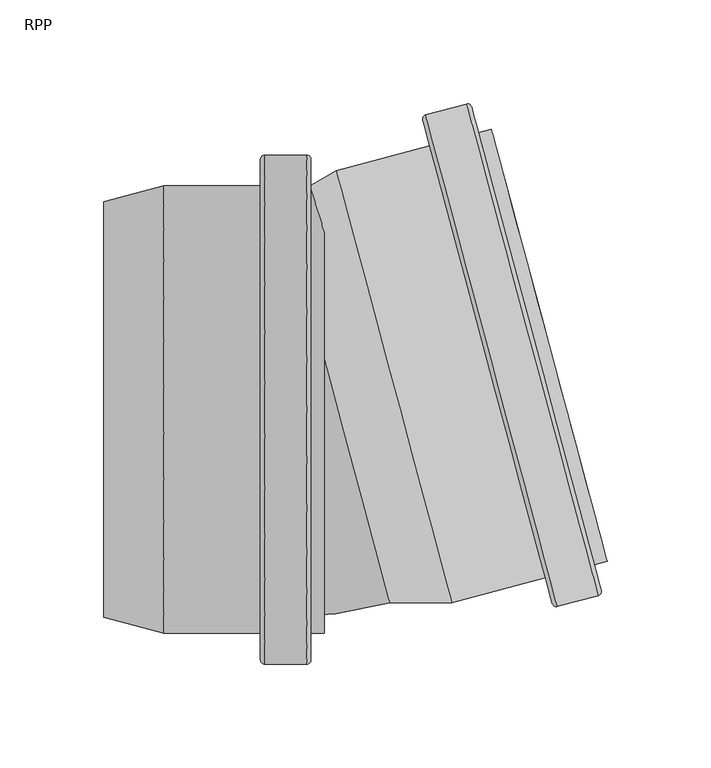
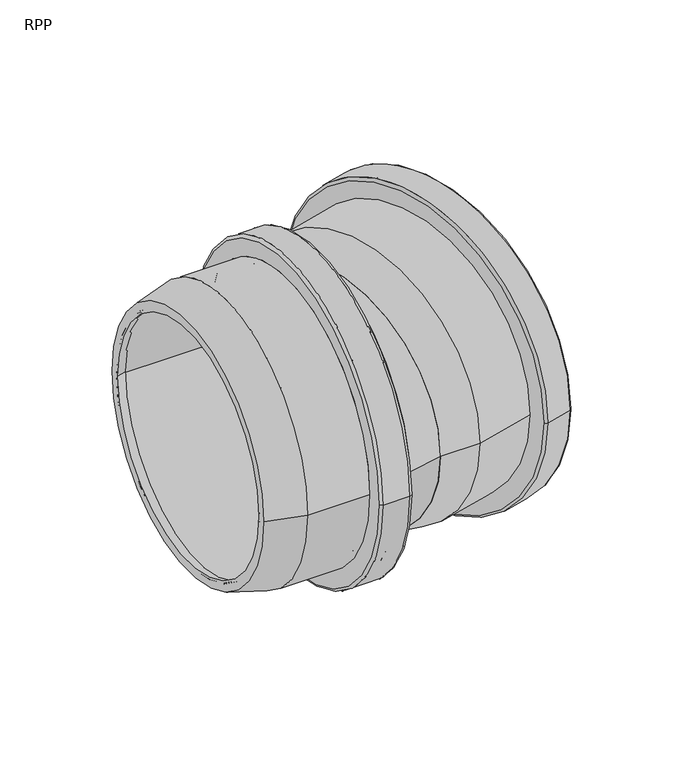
"""IFC4 building model written with IfcOpenShell, lengths in millimetres: pipe fitting geometry, RAUPIANO PLUS Bend : RPP."""

import ifcopenshell
import ifcopenshell.guid

model = None  # the IFC model being written
_history = None  # IfcOwnerHistory: only IFC2X3 demands one
_inside = {}  # id of a spatial element -> (the spatial element, [elements in it])
_under = {}  # id of a project, library or spatial element -> (it, [spatial elements below it])
_declared = {}  # id of a project -> (the project, [libraries it declares])
_typed = {}  # id of a type object -> (the type object, [elements of that type])
_made_of = {}  # id of a material, layer set ... -> (it, [elements and type objects made of it])


def new_model(schema):
    """Start an empty IFC model of exactly this schema.

    Asked for "IFC4X3", IfcOpenShell would pick the latest addendum, in which some entities
    have other attributes; the version numbers below select the first issue.
    IFC2X3 requires an IfcOwnerHistory on every rooted entity: one is made here for all.
    """
    global model, _history
    if schema == "IFC4X3":
        model = ifcopenshell.file(schema_version=(4, 3, 0, 0))
    else:
        model = ifcopenshell.file(schema=schema)
    _inside.clear()
    _under.clear()
    _declared.clear()
    _typed.clear()
    _made_of.clear()
    _history = None
    if model.schema == "IFC2X3":
        org = make("IfcOrganization", Name="unknown")
        user = make(
            "IfcPersonAndOrganization",
            ThePerson=make("IfcPerson", FamilyName="unknown"),
            TheOrganization=org,
        )
        app = make(
            "IfcApplication",
            ApplicationDeveloper=org,
            Version="unknown",
            ApplicationFullName="unknown",
            ApplicationIdentifier="unknown",
        )
        _history = make(
            "IfcOwnerHistory",
            OwningUser=user,
            OwningApplication=app,
            ChangeAction="ADDED",
            CreationDate=0,
        )
    return model


def make(cls, **values):
    """One entity of the class cls with the attributes given. An attribute that is None is left unset."""
    return model.create_entity(
        cls, **{name: value for name, value in values.items() if value is not None}
    )


def rooted(cls, **values):
    """An entity with a GlobalId (a new one), such as an element, a storey or a relation."""
    return make(cls, GlobalId=ifcopenshell.guid.new(), OwnerHistory=_history, **values)


def si_unit(unit_type, name, prefix=None):
    """IfcSIUnit, for example si_unit("LENGTHUNIT", "METRE", prefix="MILLI")."""
    return make("IfcSIUnit", UnitType=unit_type, Prefix=prefix, Name=name)


def assignment(units):
    """IfcUnitAssignment: the units of a project."""
    return None if units is None else make("IfcUnitAssignment", Units=units)


def point(xyz):
    """IfcCartesianPoint."""
    return None if xyz is None else make("IfcCartesianPoint", Coordinates=xyz)


def direction(xyz):
    """IfcDirection."""
    return None if xyz is None else make("IfcDirection", DirectionRatios=xyz)


def frame(location, z_axis=None, x_axis=None):
    """IfcAxis2Placement3D, a coordinate frame: its origin and axes. An axis left out is left unset."""
    return make(
        "IfcAxis2Placement3D",
        Location=point(location),
        Axis=direction(z_axis),
        RefDirection=direction(x_axis),
    )


def origin():
    """The frame at (0, 0, 0) with its axes left unset."""
    return frame((0.0, 0.0, 0.0))


def place(relative_to, where):
    """IfcLocalPlacement: puts the frame where relative to a parent placement (None: the world)."""
    return make(
        "IfcLocalPlacement", PlacementRelTo=relative_to, RelativePlacement=where
    )


def context(
    kind, dimensions, precision=None, world=None, true_north=None, identifier=None
):
    """IfcGeometricRepresentationContext, for example the 3D "Model" context."""
    return make(
        "IfcGeometricRepresentationContext",
        ContextIdentifier=identifier,
        ContextType=kind,
        CoordinateSpaceDimension=dimensions,
        Precision=precision,
        WorldCoordinateSystem=world,
        TrueNorth=true_north,
    )


def project(units=None, contexts=None):
    """IfcProject with its units and contexts."""
    return rooted(
        "IfcProject",
        Name="project",
        RepresentationContexts=contexts,
        UnitsInContext=assignment(units),
    )


def spatial(cls, under=None, at=None, **own):
    """A site, building, storey or space (cls), placed at a placement, below another one or the project."""
    s = rooted(cls, ObjectPlacement=at, **own)
    if under is not None:
        _under.setdefault(under.id(), (under, []))[1].append(s)
    return s


def polyline(points):
    """IfcPolyline through the points."""
    return make("IfcPolyline", Points=[point(p) for p in points])


def circle_curve(where, radius):
    """IfcCircle in the frame where."""
    return make("IfcCircle", Position=where, Radius=radius)


def ellipse_curve(where, semi_axis1, semi_axis2):
    """IfcEllipse in the frame where."""
    return make(
        "IfcEllipse", Position=where, SemiAxis1=semi_axis1, SemiAxis2=semi_axis2
    )


def trimmed(basis, trim1, trim2, sense, master):
    """IfcTrimmedCurve: the piece of a basis curve between two trims."""
    return make(
        "IfcTrimmedCurve",
        BasisCurve=basis,
        Trim1=trim1,
        Trim2=trim2,
        SenseAgreement=sense,
        MasterRepresentation=master,
    )


def shape(context_of_items, identifier, shape_type, items):
    """IfcShapeRepresentation: the items that make up one representation, for example the "Body"."""
    return make(
        "IfcShapeRepresentation",
        ContextOfItems=context_of_items,
        RepresentationIdentifier=identifier,
        RepresentationType=shape_type,
        Items=items,
    )


def source(mapping_origin, context_of_items, identifier, shape_type, items):
    """IfcRepresentationMap: a shape defined once, which mapped items show again and again."""
    return make(
        "IfcRepresentationMap",
        MappingOrigin=mapping_origin,
        MappedRepresentation=shape(context_of_items, identifier, shape_type, items),
    )


def transform(
    local_origin,
    x_axis=None,
    y_axis=None,
    z_axis=None,
    scale=None,
    scale2=None,
    scale3=None,
    uniform=True,
):
    """IfcCartesianTransformationOperator3D, or its non-uniform kind. x_axis, y_axis, z_axis: its Axis1, 2, 3."""
    if uniform:
        return make(
            "IfcCartesianTransformationOperator3D",
            Axis1=direction(x_axis),
            Axis2=direction(y_axis),
            LocalOrigin=point(local_origin),
            Scale=scale,
            Axis3=direction(z_axis),
        )
    return make(
        "IfcCartesianTransformationOperator3DnonUniform",
        Axis1=direction(x_axis),
        Axis2=direction(y_axis),
        LocalOrigin=point(local_origin),
        Scale=scale,
        Axis3=direction(z_axis),
        Scale2=scale2,
        Scale3=scale3,
    )


def mapped(mapping_source, mapping_target):
    """IfcMappedItem: shows the shape of a source again, moved by a transform."""
    return make(
        "IfcMappedItem", MappingSource=mapping_source, MappingTarget=mapping_target
    )


def made_of(thing, what):
    """Note that an element or type object is made of a material, layer set ...; save() writes the relation."""
    if what is not None:
        _made_of.setdefault(what.id(), (what, []))[1].append(thing)
    return thing


def element(
    cls,
    number,
    at=None,
    inside=None,
    cuts=None,
    type_object=None,
    material=None,
    context=None,
    identifier="Body",
    shape_type=None,
    held_by="IfcProductDefinitionShape",
    body=None,
    shapes=None,
    **own,
):
    """One element of the class cls, such as IfcWall. Its Tag is "e" and its number.

    at: its placement. inside: the storey or other place that contains it. cuts: it is an
    opening in that element (IfcRelVoidsElement). A single representation is given by context,
    identifier, shape_type and body (its items); several are given by shapes. held_by: the class
    of the entity that holds the representations. save() writes the other relations.
    """
    e = rooted(cls, Tag="e%d" % number, ObjectPlacement=at, **own)
    if body is not None:
        shapes = [shape(context, identifier, shape_type, body)]
    if shapes is not None:
        e.Representation = make(held_by, Representations=shapes)
    if inside is not None:
        _inside.setdefault(inside.id(), (inside, []))[1].append(e)
    if cuts is not None:
        rooted(
            "IfcRelVoidsElement", RelatingBuildingElement=cuts, RelatedOpeningElement=e
        )
    if type_object is not None:
        _typed.setdefault(type_object.id(), (type_object, []))[1].append(e)
    return made_of(e, material)


def aggregate(whole, parts):
    """IfcRelAggregates: a whole, such as a stair, and the parts it consists of."""
    return rooted("IfcRelAggregates", RelatingObject=whole, RelatedObjects=parts)


def save(model, path):
    """Write the relations noted so far, then the file.

    IfcRelAggregates (storeys below a building ...), IfcRelContainedInSpatialStructure (elements
    in a storey), IfcRelDefinesByType, IfcRelAssociatesMaterial and IfcRelDeclares: one each for
    every whole, place, type object, material and project.
    """
    for whole, parts in _under.values():
        aggregate(whole, parts)
    for where, things in _inside.values():
        rooted(
            "IfcRelContainedInSpatialStructure",
            RelatedElements=things,
            RelatingStructure=where,
        )
    for kind, things in _typed.values():
        rooted("IfcRelDefinesByType", RelatedObjects=things, RelatingType=kind)
    for what, things in _made_of.values():
        rooted("IfcRelAssociatesMaterial", RelatedObjects=things, RelatingMaterial=what)
    for by, libraries in _declared.values():
        rooted("IfcRelDeclares", RelatingContext=by, RelatedDefinitions=libraries)
    model.write(path)


def plane_surface(at):
    """IfcPlane: the flat surface through the origin of the frame at, square to its z axis."""
    return make("IfcPlane", Position=at)


def cylinder_surface(at, radius):
    """IfcCylindricalSurface: all points at the distance radius from the z axis of the frame at."""
    return make("IfcCylindricalSurface", Position=at, Radius=radius)


def revolved_surface(curve, axis_point, axis_direction):
    """IfcSurfaceOfRevolution: the curve turned about the line through axis_point along axis_direction."""
    return make(
        "IfcSurfaceOfRevolution",
        SweptCurve=make("IfcArbitraryOpenProfileDef", ProfileType="CURVE", Curve=curve),
        AxisPosition=make("IfcAxis1Placement", Location=point(axis_point), Axis=direction(axis_direction)),
    )


def advanced_brep(points, edges, surfaces, faces):
    """IfcAdvancedBrep: a solid bounded by faces that lie on surfaces and meet in shared edges.

    An edge is (start, end): straight between two places in points (the first is 0);
    or (start, end, curve); or (start, end, curve, False) where it runs against its curve.
    A face is (place in surfaces, loops), or (place, loops, False) where it looks against
    its surface's normal. A loop lists edges by number (the first is 1), with a minus sign
    where the edge is run from its end to its start. The first loop is the outer one.
    """
    corners = [point(p) for p in points]
    vertices = [make("IfcVertexPoint", VertexGeometry=c) for c in corners]
    made = []
    for start, end, *more in edges:
        made.append(
            make(
                "IfcEdgeCurve",
                EdgeStart=vertices[start],
                EdgeEnd=vertices[end],
                EdgeGeometry=more[0] if more else make("IfcPolyline", Points=[corners[start], corners[end]]),
                SameSense=more[1] if len(more) > 1 else True,
            )
        )
    hull = []
    for where, loops, *sense in faces:
        bounds = []
        for j, loop in enumerate(loops):
            ring = [make("IfcOrientedEdge", EdgeElement=made[abs(k) - 1], Orientation=k > 0) for k in loop]
            bounds.append(
                make(
                    "IfcFaceOuterBound" if j == 0 else "IfcFaceBound",
                    Bound=make("IfcEdgeLoop", EdgeList=ring),
                    Orientation=True,
                )
            )
        hull.append(make("IfcAdvancedFace", Bounds=bounds, FaceSurface=surfaces[where], SameSense=sense[0] if sense else True))
    return make("IfcAdvancedBrep", Outer=make("IfcClosedShell", CfsFaces=hull))


def rpp_a2276557(model_context):
    return source(origin(), model_context, "Body", "AdvancedBrep", [
        advanced_brep(
        [(-15.8918597, -100.3, 0.0), (-15.8918597, 100.3, 0.0), (-68.98084, 100.3, 0.0), (-68.98084, -100.3, 0.0), (-15.3918597, -115.1, 0.0), (-15.3918597, 115.1, 0.0), (-15.8918597, 114.6, 0.0), (-15.8918597, -114.6, 0.0), (-6.8918597, -115.1, 0.0), (-6.8918597, 115.1, 0.0), (-6.3918597, -114.6, 0.0), (-6.3918597, 114.6, 0.0), (7.4081403, -100.3, 0.0), (7.4081403, 100.3, 0.0), (-6.3918597, 100.3, 0.0), (-6.3918597, -100.3, 0.0), (1.0081403, -107.7, 0.0), (1.0081403, 107.7, 0.0), (7.4081403, 107.7, 0.0), (7.4081403, -107.7, 0.0), (-0.9918597, -122.5, 0.0), (-0.9918597, 122.5, 0.0), (1.0081403, 120.5, 0.0), (1.0081403, -120.5, 0.0), (-21.2918597, -122.5, 0.0), (-21.2918597, 122.5, 0.0), (-23.2918597, -120.5, 0.0), (-23.2918597, 120.5, 0.0), (-69.9550685, -107.7, 0.0), (-69.9550685, 107.7, 0.0), (-23.2918597, 107.7, 0.0), (-23.2918597, -107.7, 0.0), (-98.6918597, -100.0, 0.0), (-98.6918597, 100.0, 0.0), (-98.6918597, 92.3389563, 0.0), (-98.6918597, -92.3389563, 0.0)],
        [
            (0, 1, circle_curve(frame((-15.8918597, 0.0, 0.0), z_axis=(1.0, 0.0, 0.0), x_axis=(0.0, 1.0, 0.0)), 100.3)),
            (1, 2),
            (2, 3, circle_curve(frame((-68.98084, 0.0, 0.0), z_axis=(-1.0, 0.0, 0.0), x_axis=(0.0, 1.0, 0.0)), 100.3)),
            (3, 0),
            (4, 5, circle_curve(frame((-15.3918597, 0.0, 0.0), z_axis=(1.0, 0.0, 0.0), x_axis=(0.0, 1.0, 0.0)), 115.1)),
            (5, 6, circle_curve(frame((-15.3918597, 114.6, 0.0), z_axis=(0.0, 0.0, 1.0), x_axis=(0.0, -1.0, 0.0)), 0.5)),
            (6, 7, circle_curve(frame((-15.8918597, 0.0, 0.0), z_axis=(-1.0, 0.0, 0.0), x_axis=(0.0, 1.0, 0.0)), 114.6)),
            (7, 4, circle_curve(frame((-15.3918597, -114.6, 0.0), z_axis=(0.0, 0.0, 1.0), x_axis=(0.0, 1.0, 0.0)), 0.5)),
            (8, 9, circle_curve(frame((-6.8918597, 0.0, 0.0), z_axis=(1.0, 0.0, 0.0), x_axis=(0.0, 1.0, 0.0)), 115.1)),
            (9, 5),
            (4, 8),
            (10, 11, circle_curve(frame((-6.3918597, 0.0, 0.0), z_axis=(1.0, 0.0, 0.0), x_axis=(0.0, 1.0, 0.0)), 114.6)),
            (11, 9, circle_curve(frame((-6.8918597, 114.6, 0.0), z_axis=(0.0, 0.0, 1.0), x_axis=(0.0, -1.0, 0.0)), 0.5)),
            (8, 10, circle_curve(frame((-6.8918597, -114.6, 0.0), z_axis=(0.0, 0.0, 1.0), x_axis=(0.0, 1.0, 0.0)), 0.5)),
            (12, 13, circle_curve(frame((7.4081403, 0.0, 0.0), z_axis=(1.0, 0.0, 0.0), x_axis=(0.0, 1.0, 0.0)), 100.3)),
            (13, 14),
            (14, 15, circle_curve(frame((-6.3918597, 0.0, 0.0), z_axis=(-1.0, 0.0, 0.0), x_axis=(0.0, 1.0, 0.0)), 100.3)),
            (15, 12),
            (16, 17, circle_curve(frame((1.0081403, 0.0, 0.0), z_axis=(1.0, 0.0, 0.0), x_axis=(0.0, 1.0, 0.0)), 107.7)),
            (17, 18),
            (18, 19, circle_curve(frame((7.4081403, 0.0, 0.0), z_axis=(-1.0, 0.0, 0.0), x_axis=(0.0, 1.0, 0.0)), 107.7)),
            (19, 16),
            (20, 21, circle_curve(frame((-0.9918597, 0.0, 0.0), z_axis=(1.0, 0.0, 0.0), x_axis=(0.0, 1.0, 0.0)), 122.5)),
            (21, 22, circle_curve(frame((-0.9918597, 120.5, 0.0), z_axis=(0.0, 0.0, -1.0), x_axis=(0.0, -1.0, 0.0)), 2.0)),
            (22, 23, circle_curve(frame((1.0081403, 0.0, 0.0), z_axis=(-1.0, 0.0, 0.0), x_axis=(0.0, 1.0, 0.0)), 120.5)),
            (23, 20, circle_curve(frame((-0.9918597, -120.5, 0.0), z_axis=(0.0, 0.0, -1.0), x_axis=(0.0, 1.0, 0.0)), 2.0)),
            (24, 25, circle_curve(frame((-21.2918597, 0.0, 0.0), z_axis=(1.0, 0.0, 0.0), x_axis=(0.0, 1.0, 0.0)), 122.5)),
            (25, 21),
            (20, 24),
            (26, 27, circle_curve(frame((-23.2918597, 0.0, 0.0), z_axis=(1.0, 0.0, 0.0), x_axis=(0.0, 1.0, 0.0)), 120.5)),
            (27, 25, circle_curve(frame((-21.2918597, 120.5, 0.0), z_axis=(0.0, 0.0, -1.0), x_axis=(0.0, -1.0, 0.0)), 2.0)),
            (24, 26, circle_curve(frame((-21.2918597, -120.5, 0.0), z_axis=(0.0, 0.0, -1.0), x_axis=(0.0, 1.0, 0.0)), 2.0)),
            (28, 29, circle_curve(frame((-69.9550685, 0.0, 0.0), z_axis=(1.0, 0.0, 0.0), x_axis=(0.0, 1.0, 0.0)), 107.7)),
            (29, 30),
            (30, 31, circle_curve(frame((-23.2918597, 0.0, 0.0), z_axis=(-1.0, 0.0, 0.0), x_axis=(0.0, 1.0, 0.0)), 107.7)),
            (31, 28),
            (32, 33, circle_curve(frame((-98.6918597, 0.0, 0.0), z_axis=(1.0, 0.0, 0.0), x_axis=(0.0, 1.0, 0.0)), 100.0)),
            (33, 29),
            (28, 32),
            (2, 34),
            (34, 35, circle_curve(frame((-98.6918597, 0.0, 0.0), z_axis=(-1.0, 0.0, 0.0), x_axis=(0.0, 1.0, 0.0)), 92.3389563)),
            (35, 3),
            (1, 0, circle_curve(frame((-15.8918597, 0.0, 0.0), z_axis=(1.0, 0.0, 0.0), x_axis=(0.0, -1.0, 0.0)), 100.3)),
            (3, 2, circle_curve(frame((-68.98084, 0.0, 0.0), z_axis=(-1.0, 0.0, 0.0), x_axis=(0.0, -1.0, 0.0)), 100.3)),
            (6, 7, circle_curve(frame((-15.8918597, 0.0, 0.0), z_axis=(1.0, 0.0, 0.0), x_axis=(0.0, -1.0, 0.0)), 114.6)),
            (5, 4, circle_curve(frame((-15.3918597, 0.0, 0.0), z_axis=(1.0, 0.0, 0.0), x_axis=(0.0, -1.0, 0.0)), 115.1)),
            (9, 8, circle_curve(frame((-6.8918597, 0.0, 0.0), z_axis=(1.0, 0.0, 0.0), x_axis=(0.0, -1.0, 0.0)), 115.1)),
            (11, 10, circle_curve(frame((-6.3918597, 0.0, 0.0), z_axis=(1.0, 0.0, 0.0), x_axis=(0.0, -1.0, 0.0)), 114.6)),
            (14, 15, circle_curve(frame((-6.3918597, 0.0, 0.0), z_axis=(1.0, 0.0, 0.0), x_axis=(0.0, -1.0, 0.0)), 100.3)),
            (13, 12, circle_curve(frame((7.4081403, 0.0, 0.0), z_axis=(1.0, 0.0, 0.0), x_axis=(0.0, -1.0, 0.0)), 100.3)),
            (18, 19, circle_curve(frame((7.4081403, 0.0, 0.0), z_axis=(1.0, 0.0, 0.0), x_axis=(0.0, -1.0, 0.0)), 107.7)),
            (17, 16, circle_curve(frame((1.0081403, 0.0, 0.0), z_axis=(1.0, 0.0, 0.0), x_axis=(0.0, -1.0, 0.0)), 107.7)),
            (22, 23, circle_curve(frame((1.0081403, 0.0, 0.0), z_axis=(1.0, 0.0, 0.0), x_axis=(0.0, -1.0, 0.0)), 120.5)),
            (21, 20, circle_curve(frame((-0.9918597, 0.0, 0.0), z_axis=(1.0, 0.0, 0.0), x_axis=(0.0, -1.0, 0.0)), 122.5)),
            (25, 24, circle_curve(frame((-21.2918597, 0.0, 0.0), z_axis=(1.0, 0.0, 0.0), x_axis=(0.0, -1.0, 0.0)), 122.5)),
            (27, 26, circle_curve(frame((-23.2918597, 0.0, 0.0), z_axis=(1.0, 0.0, 0.0), x_axis=(0.0, -1.0, 0.0)), 120.5)),
            (30, 31, circle_curve(frame((-23.2918597, 0.0, 0.0), z_axis=(1.0, 0.0, 0.0), x_axis=(0.0, -1.0, 0.0)), 107.7)),
            (29, 28, circle_curve(frame((-69.9550685, 0.0, 0.0), z_axis=(1.0, 0.0, 0.0), x_axis=(0.0, -1.0, 0.0)), 107.7)),
            (33, 32, circle_curve(frame((-98.6918597, 0.0, 0.0), z_axis=(1.0, 0.0, 0.0), x_axis=(0.0, -1.0, 0.0)), 100.0)),
            (34, 35, circle_curve(frame((-98.6918597, 0.0, 0.0), z_axis=(1.0, 0.0, 0.0), x_axis=(0.0, -1.0, 0.0)), 92.3389563)),
        ],
        [
            revolved_surface(polyline([(-68.98084, 100.3, 0.0), (-15.891859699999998, 100.3, 0.0)]), (-98.6918597, 0.0, 0.0), (-1.0, 0.0, 0.0)),
            revolved_surface(trimmed(ellipse_curve(frame((-15.3918597, 114.6, 0.0), z_axis=(0.0, 0.0, -1.0), x_axis=(0.0, -1.0, 0.0)), 0.5, 0.5), [point((-15.8918597, 114.6, 0.0))], [point((-15.3918597, 115.1, 0.0))], True, "CARTESIAN"), (-98.6918597, 0.0, 0.0), (-1.0, 0.0, 0.0)),
            revolved_surface(polyline([(-15.391859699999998, 115.1, 0.0), (-6.891859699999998, 115.1, 0.0)]), (-98.6918597, 0.0, 0.0), (-1.0, 0.0, 0.0)),
            revolved_surface(trimmed(ellipse_curve(frame((-6.8918597, 114.6, 0.0), z_axis=(0.0, 0.0, -1.0), x_axis=(0.0, -1.0, 0.0)), 0.5, 0.5), [point((-6.8918597, 115.1, 0.0))], [point((-6.3918597, 114.6, 0.0))], True, "CARTESIAN"), (-98.6918597, 0.0, 0.0), (-1.0, 0.0, 0.0)),
            revolved_surface(polyline([(-6.391859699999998, 100.3, 0.0), (7.4081402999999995, 100.3, 0.0)]), (-98.6918597, 0.0, 0.0), (-1.0, 0.0, 0.0)),
            cylinder_surface(frame((-98.6918597, 0.0, 0.0), z_axis=(-1.0, 0.0, 0.0), x_axis=(0.0, 1.0, 0.0)), 107.7),
            revolved_surface(trimmed(ellipse_curve(frame((-0.9918597, 120.5, 0.0), z_axis=(0.0, 0.0, 1.0), x_axis=(0.0, -1.0, 0.0)), 2.0, 2.0), [point((1.0081403, 120.5, 0.0))], [point((-0.9918597, 122.5, 0.0))], True, "CARTESIAN"), (-98.6918597, 0.0, 0.0), (-1.0, 0.0, 0.0)),
            cylinder_surface(frame((-98.6918597, 0.0, 0.0), z_axis=(-1.0, 0.0, 0.0), x_axis=(0.0, 1.0, 0.0)), 122.5),
            revolved_surface(trimmed(ellipse_curve(frame((-21.2918597, 120.5, 0.0), z_axis=(0.0, 0.0, 1.0), x_axis=(0.0, -1.0, 0.0)), 2.0, 2.0), [point((-21.2918597, 122.5, 0.0))], [point((-23.2918597, 120.5, 0.0))], True, "CARTESIAN"), (-98.6918597, 0.0, 0.0), (-1.0, 0.0, 0.0)),
            revolved_surface(polyline([(-69.9550685, 107.7, 0.0), (-98.6918597, 100.0, 0.0)]), (-98.6918597, 0.0, 0.0), (-1.0, 0.0, 0.0)),
            revolved_surface(polyline([(-98.6918597, 92.3389563, 0.0), (-68.98084, 100.3, 0.0)]), (-98.6918597, 0.0, 0.0), (-1.0, 0.0, 0.0)),
            revolved_surface(polyline([(-68.98084, -100.3, 0.0), (-15.891859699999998, -100.3, 0.0)]), (-98.6918597, 0.0, 0.0), (-1.0, 0.0, 0.0)),
            plane_surface(frame((-15.8918597, 0.0, 0.0), z_axis=(1.0, 0.0, 0.0), x_axis=(0.0, -1.0, 0.0))),
            revolved_surface(trimmed(ellipse_curve(frame((-15.3918597, -114.6, 0.0), z_axis=(0.0, 0.0, 1.0), x_axis=(0.0, 1.0, 0.0)), 0.5, 0.5), [point((-15.8918597, -114.6, 0.0))], [point((-15.3918597, -115.1, 0.0))], True, "CARTESIAN"), (-98.6918597, 0.0, 0.0), (-1.0, 0.0, 0.0)),
            revolved_surface(polyline([(-15.391859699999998, -115.1, 0.0), (-6.891859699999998, -115.1, 0.0)]), (-98.6918597, 0.0, 0.0), (-1.0, 0.0, 0.0)),
            revolved_surface(trimmed(ellipse_curve(frame((-6.8918597, -114.6, 0.0), z_axis=(0.0, 0.0, 1.0), x_axis=(0.0, 1.0, 0.0)), 0.5, 0.5), [point((-6.8918597, -115.1, 0.0))], [point((-6.3918597, -114.6, 0.0))], True, "CARTESIAN"), (-98.6918597, 0.0, 0.0), (-1.0, 0.0, 0.0)),
            plane_surface(frame((-6.3918597, 0.0, 0.0), z_axis=(-1.0, 0.0, 0.0), x_axis=(0.0, -1.0, 0.0))),
            revolved_surface(polyline([(-6.391859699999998, -100.3, 0.0), (7.4081402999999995, -100.3, 0.0)]), (-98.6918597, 0.0, 0.0), (-1.0, 0.0, 0.0)),
            plane_surface(frame((7.4081403, 0.0, 0.0), z_axis=(1.0, 0.0, 0.0), x_axis=(0.0, -1.0, 0.0))),
            cylinder_surface(frame((-98.6918597, 0.0, 0.0), z_axis=(-1.0, 0.0, 0.0), x_axis=(0.0, -1.0, 0.0)), 107.7),
            plane_surface(frame((1.0081403, 0.0, 0.0), z_axis=(1.0, 0.0, 0.0), x_axis=(0.0, -1.0, 0.0))),
            revolved_surface(trimmed(ellipse_curve(frame((-0.9918597, -120.5, 0.0), z_axis=(0.0, 0.0, -1.0), x_axis=(0.0, 1.0, 0.0)), 2.0, 2.0), [point((1.0081403, -120.5, 0.0))], [point((-0.9918597, -122.5, 0.0))], True, "CARTESIAN"), (-98.6918597, 0.0, 0.0), (-1.0, 0.0, 0.0)),
            cylinder_surface(frame((-98.6918597, 0.0, 0.0), z_axis=(-1.0, 0.0, 0.0), x_axis=(0.0, -1.0, 0.0)), 122.5),
            revolved_surface(trimmed(ellipse_curve(frame((-21.2918597, -120.5, 0.0), z_axis=(0.0, 0.0, -1.0), x_axis=(0.0, 1.0, 0.0)), 2.0, 2.0), [point((-21.2918597, -122.5, 0.0))], [point((-23.2918597, -120.5, 0.0))], True, "CARTESIAN"), (-98.6918597, 0.0, 0.0), (-1.0, 0.0, 0.0)),
            plane_surface(frame((-23.2918597, 0.0, 0.0), z_axis=(-1.0, 0.0, 0.0), x_axis=(0.0, -1.0, 0.0))),
            revolved_surface(polyline([(-69.9550685, -107.7, 0.0), (-98.6918597, -100.0, 0.0)]), (-98.6918597, 0.0, 0.0), (-1.0, 0.0, 0.0)),
            plane_surface(frame((-98.6918597, 0.0, 0.0), z_axis=(-1.0, 0.0, 0.0), x_axis=(0.0, -1.0, 0.0))),
            revolved_surface(polyline([(-98.6918597, -92.3389563, 0.0), (-68.98084, -100.3, 0.0)]), (-98.6918597, 0.0, 0.0), (-1.0, 0.0, 0.0)),
        ],
        [
            (0, [[1, 2, 3, 4]]),
            (1, [[5, 6, 7, 8]]),
            (2, [[9, 10, -5, 11]]),
            (3, [[12, 13, -9, 14]]),
            (4, [[15, 16, 17, 18]]),
            (5, [[19, 20, 21, 22]]),
            (6, [[23, 24, 25, 26]]),
            (7, [[27, 28, -23, 29]]),
            (8, [[30, 31, -27, 32]]),
            (5, [[33, 34, 35, 36]]),
            (9, [[37, 38, -33, 39]]),
            (10, [[-3, 40, 41, 42]]),
            (11, [[43, -4, 44, -2]]),
            (12, [[45, -7], [-43, -1]]),
            (13, [[46, -8, -45, -6]]),
            (14, [[47, -11, -46, -10]]),
            (15, [[48, -14, -47, -13]]),
            (16, [[-48, -12], [49, -17]]),
            (17, [[50, -18, -49, -16]]),
            (18, [[51, -21], [-50, -15]]),
            (19, [[52, -22, -51, -20]]),
            (20, [[53, -25], [-52, -19]]),
            (21, [[54, -26, -53, -24]]),
            (22, [[55, -29, -54, -28]]),
            (23, [[56, -32, -55, -31]]),
            (24, [[-56, -30], [57, -35]]),
            (19, [[58, -36, -57, -34]]),
            (25, [[59, -39, -58, -38]]),
            (26, [[-59, -37], [60, -41]]),
            (27, [[-44, -42, -60, -40]]),
        ],
    ),
        advanced_brep(
        [(37.1244014, -85.6488686, 0.0), (-10.6737595, 92.7362967, 0.0), (15.964412, 108.1158522, 0.0), (67.8835124, -85.6488686, 0.0), (68.8577409, -93.0488686, 0.0), (13.1081186, 115.0115544, 0.0), (-12.6565836, 100.1362967, 0.0), (39.1072255, -93.0488686, 0.0), (113.9309394, -80.9715414, 0.0), (58.1813171, 127.0888816, 0.0), (139.3016072, -89.4955789, 0.0), (75.8909411, 147.1562485, 0.0), (56.2826469, 141.9022219, 0.0), (119.6933129, -94.7496056, 0.0), (143.5848623, -73.0257967, 0.0), (87.83524, 135.0346262, 0.0), (81.6533147, 133.3781844, 0.0), (137.402937, -74.6822386, 0.0), (128.3398249, -69.4496484, 0.0), (76.4207245, 124.3150723, 0.0), (89.7505009, 127.8867751, 0.0), (141.6696013, -65.8779456, 0.0), (123.4770144, -86.0747221, 0.0), (63.8968702, 136.2814031, 0.0), (72.1072397, 138.481365, 0.0), (131.6873839, -83.8747602, 0.0), (67.2444291, 121.8562914, 0.0), (119.1635296, -71.9084294, 0.0), (54.8684333, 139.4527321, 0.0), (117.2438232, -93.335392, 0.0), (140.7158208, -87.0460892, 0.0), (78.3404309, 145.7420349, 0.0), (72.7196121, 138.1278116, 0.0), (132.0409373, -83.2623878, 0.0), (122.8646419, -85.7211687, 0.0), (63.5433168, 135.6690307, 0.0)],
        [
            (0, 1, circle_curve(frame((13.2253209, 3.5437141, 0.0), z_axis=(-0.965925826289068, -0.25881904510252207, 0.0), x_axis=(-0.25881904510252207, 0.965925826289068, 0.0)), 92.3389563)),
            (1, 2),
            (2, 3, circle_curve(frame((41.9239622, 11.2334918, 0.0), z_axis=(0.965925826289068, 0.25881904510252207, 0.0), x_axis=(-0.25881904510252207, 0.965925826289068, 0.0)), 100.3)),
            (3, 0),
            (4, 5, circle_curve(frame((40.9829297, 10.9813429, 0.0), z_axis=(-0.965925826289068, -0.25881904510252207, 0.0), x_axis=(-0.25881904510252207, 0.965925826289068, 0.0)), 107.7)),
            (5, 6),
            (6, 7, circle_curve(frame((13.2253209, 3.5437141, 0.0), z_axis=(0.965925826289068, 0.25881904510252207, 0.0), x_axis=(-0.25881904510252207, 0.965925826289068, 0.0)), 100.0)),
            (7, 4),
            (8, 9, circle_curve(frame((86.0561282, 23.0586701, 0.0), z_axis=(-0.965925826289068, -0.25881904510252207, 0.0), x_axis=(-0.25881904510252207, 0.965925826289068, 0.0)), 107.7)),
            (9, 5),
            (4, 8),
            (10, 11, circle_curve(frame((107.5962742, 28.8303348, 0.0), z_axis=(-0.965925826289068, -0.25881904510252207, 0.0), x_axis=(-0.25881904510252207, 0.965925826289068, 0.0)), 122.5)),
            (11, 12),
            (12, 13, circle_curve(frame((87.9879799, 23.5763082, 0.0), z_axis=(0.965925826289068, 0.25881904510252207, 0.0), x_axis=(-0.25881904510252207, 0.965925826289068, 0.0)), 122.5)),
            (13, 10),
            (14, 15, circle_curve(frame((115.7100511, 31.0044148, 0.0), z_axis=(-0.965925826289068, -0.25881904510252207, 0.0), x_axis=(-0.25881904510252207, 0.965925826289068, 0.0)), 107.7)),
            (15, 16),
            (16, 17, circle_curve(frame((109.5281258, 29.3479729, 0.0), z_axis=(0.965925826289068, 0.25881904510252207, 0.0), x_axis=(-0.25881904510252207, 0.965925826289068, 0.0)), 107.7)),
            (17, 14),
            (18, 19, circle_curve(frame((102.3802747, 27.4327119, 0.0), z_axis=(-0.965925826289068, -0.25881904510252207, 0.0), x_axis=(-0.25881904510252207, 0.965925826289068, 0.0)), 100.3)),
            (19, 20),
            (20, 21, circle_curve(frame((115.7100511, 31.0044148, 0.0), z_axis=(0.965925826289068, 0.25881904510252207, 0.0), x_axis=(-0.25881904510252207, 0.965925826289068, 0.0)), 100.3)),
            (21, 18),
            (22, 23, circle_curve(frame((93.6869423, 25.1033405, 0.0), z_axis=(-0.965925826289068, -0.25881904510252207, 0.0), x_axis=(-0.25881904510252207, 0.965925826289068, 0.0)), 115.1)),
            (23, 24),
            (24, 25, circle_curve(frame((101.8973118, 27.3033024, 0.0), z_axis=(0.965925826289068, 0.25881904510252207, 0.0), x_axis=(-0.25881904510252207, 0.965925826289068, 0.0)), 115.1)),
            (25, 22),
            (2, 26),
            (26, 27, circle_curve(frame((93.2039794, 24.973931, 0.0), z_axis=(0.965925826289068, 0.25881904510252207, 0.0), x_axis=(-0.25881904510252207, 0.965925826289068, 0.0)), 100.3)),
            (27, 3),
            (1, 0, circle_curve(frame((13.2253209, 3.5437141, 0.0), z_axis=(-0.965925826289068, -0.25881904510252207, 0.0), x_axis=(0.25881904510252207, -0.965925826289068, 0.0)), 92.3389563)),
            (3, 2, circle_curve(frame((41.9239622, 11.2334918, 0.0), z_axis=(0.965925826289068, 0.25881904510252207, 0.0), x_axis=(0.25881904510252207, -0.965925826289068, 0.0)), 100.3)),
            (6, 7, circle_curve(frame((13.2253209, 3.5437141, 0.0), z_axis=(-0.965925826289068, -0.25881904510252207, 0.0), x_axis=(0.25881904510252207, -0.965925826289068, 0.0)), 100.0)),
            (5, 4, circle_curve(frame((40.9829297, 10.9813429, 0.0), z_axis=(-0.965925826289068, -0.25881904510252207, 0.0), x_axis=(0.25881904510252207, -0.965925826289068, 0.0)), 107.7)),
            (9, 8, circle_curve(frame((86.0561282, 23.0586701, 0.0), z_axis=(-0.965925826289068, -0.25881904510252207, 0.0), x_axis=(0.25881904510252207, -0.965925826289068, 0.0)), 107.7)),
            (28, 29, circle_curve(frame((86.0561282, 23.0586701, 0.0), z_axis=(-0.965925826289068, -0.25881904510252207, 0.0), x_axis=(0.25881904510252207, -0.965925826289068, 0.0)), 120.5)),
            (29, 28, circle_curve(frame((86.0561282, 23.0586701, 0.0), z_axis=(-0.965925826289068, -0.25881904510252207, 0.0), x_axis=(-0.25881904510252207, 0.965925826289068, 0.0)), 120.5)),
            (11, 10, circle_curve(frame((107.5962742, 28.8303348, 0.0), z_axis=(-0.965925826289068, -0.25881904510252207, 0.0), x_axis=(0.25881904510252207, -0.965925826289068, 0.0)), 122.5)),
            (13, 12, circle_curve(frame((87.9879799, 23.5763082, 0.0), z_axis=(0.965925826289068, 0.25881904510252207, 0.0), x_axis=(0.25881904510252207, -0.965925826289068, 0.0)), 122.5)),
            (30, 31, circle_curve(frame((109.5281258, 29.3479729, 0.0), z_axis=(0.965925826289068, 0.25881904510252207, 0.0), x_axis=(0.25881904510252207, -0.965925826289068, 0.0)), 120.5)),
            (31, 30, circle_curve(frame((109.5281258, 29.3479729, 0.0), z_axis=(0.965925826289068, 0.25881904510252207, 0.0), x_axis=(-0.25881904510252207, 0.965925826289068, 0.0)), 120.5)),
            (16, 17, circle_curve(frame((109.5281258, 29.3479729, 0.0), z_axis=(-0.965925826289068, -0.25881904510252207, 0.0), x_axis=(0.25881904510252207, -0.965925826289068, 0.0)), 107.7)),
            (15, 14, circle_curve(frame((115.7100511, 31.0044148, 0.0), z_axis=(-0.965925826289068, -0.25881904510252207, 0.0), x_axis=(0.25881904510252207, -0.965925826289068, 0.0)), 107.7)),
            (20, 21, circle_curve(frame((115.7100511, 31.0044148, 0.0), z_axis=(-0.965925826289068, -0.25881904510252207, 0.0), x_axis=(0.25881904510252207, -0.965925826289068, 0.0)), 100.3)),
            (19, 18, circle_curve(frame((102.3802747, 27.4327119, 0.0), z_axis=(-0.965925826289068, -0.25881904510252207, 0.0), x_axis=(0.25881904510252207, -0.965925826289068, 0.0)), 100.3)),
            (32, 33, circle_curve(frame((102.3802747, 27.4327119, 0.0), z_axis=(-0.965925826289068, -0.25881904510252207, 0.0), x_axis=(0.25881904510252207, -0.965925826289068, 0.0)), 114.6)),
            (33, 32, circle_curve(frame((102.3802747, 27.4327119, 0.0), z_axis=(-0.965925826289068, -0.25881904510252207, 0.0), x_axis=(-0.25881904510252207, 0.965925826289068, 0.0)), 114.6)),
            (23, 22, circle_curve(frame((93.6869423, 25.1033405, 0.0), z_axis=(-0.965925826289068, -0.25881904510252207, 0.0), x_axis=(0.25881904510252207, -0.965925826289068, 0.0)), 115.1)),
            (25, 24, circle_curve(frame((101.8973118, 27.3033024, 0.0), z_axis=(0.965925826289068, 0.25881904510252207, 0.0), x_axis=(0.25881904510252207, -0.965925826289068, 0.0)), 115.1)),
            (34, 35, circle_curve(frame((93.2039794, 24.973931, 0.0), z_axis=(0.965925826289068, 0.25881904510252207, 0.0), x_axis=(0.25881904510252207, -0.965925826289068, 0.0)), 114.6)),
            (35, 34, circle_curve(frame((93.2039794, 24.973931, 0.0), z_axis=(0.965925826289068, 0.25881904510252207, 0.0), x_axis=(-0.25881904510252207, 0.965925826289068, 0.0)), 114.6)),
            (26, 27, circle_curve(frame((93.2039794, 24.973931, 0.0), z_axis=(-0.965925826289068, -0.25881904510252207, 0.0), x_axis=(0.25881904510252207, -0.965925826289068, 0.0)), 100.3)),
            (12, 28, circle_curve(frame((56.800285, 139.9703702, 0.0), z_axis=(0.0, 0.0, 1.0), x_axis=(0.258819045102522, -0.965925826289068, 0.0)), 2.0)),
            (29, 13, circle_curve(frame((119.1756748, -92.8177539, 0.0), z_axis=(0.0, 0.0, 1.0), x_axis=(-0.2588190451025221, 0.965925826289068, 0.0)), 2.0)),
            (31, 11, circle_curve(frame((76.4085792, 145.2243968, 0.0), z_axis=(0.0, 0.0, 1.0), x_axis=(0.258819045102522, -0.965925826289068, 0.0)), 2.0)),
            (10, 30, circle_curve(frame((138.7839691, -87.5637273, 0.0), z_axis=(0.0, 0.0, 1.0), x_axis=(-0.2588190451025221, 0.965925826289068, 0.0)), 2.0)),
            (24, 32, circle_curve(frame((72.2366492, 137.9984021, 0.0), z_axis=(0.0, 0.0, -1.0), x_axis=(0.258819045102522, -0.965925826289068, 0.0)), 0.5)),
            (33, 25, circle_curve(frame((131.5579744, -83.3917973, 0.0), z_axis=(0.0, 0.0, -1.0), x_axis=(-0.2588190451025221, 0.965925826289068, 0.0)), 0.5)),
            (35, 23, circle_curve(frame((64.0262797, 135.7984402, 0.0), z_axis=(0.0, 0.0, -1.0), x_axis=(0.258819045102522, -0.965925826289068, 0.0)), 0.5)),
            (22, 34, circle_curve(frame((123.3476048, -85.5917592, 0.0), z_axis=(0.0, 0.0, -1.0), x_axis=(-0.2588190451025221, 0.965925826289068, 0.0)), 0.5)),
        ],
        [
            revolved_surface(polyline([(15.964412, 108.1158522, 0.0), (-10.6737595, 92.7362967, 0.0)]), (13.2253209, 3.5437141, 0.0), (0.965925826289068, 0.25881904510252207, 0.0)),
            revolved_surface(polyline([(-12.6565836, 100.1362967, 0.0), (13.1081186, 115.0115544, 0.0)]), (13.2253209, 3.5437141, 0.0), (0.965925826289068, 0.25881904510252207, 0.0)),
            cylinder_surface(frame((13.2253209, 3.5437141, 0.0), z_axis=(0.965925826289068, 0.25881904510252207, 0.0), x_axis=(-0.25881904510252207, 0.965925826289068, 0.0)), 107.7),
            cylinder_surface(frame((13.2253209, 3.5437141, 0.0), z_axis=(0.965925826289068, 0.25881904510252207, 0.0), x_axis=(-0.25881904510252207, 0.965925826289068, 0.0)), 122.5),
            revolved_surface(polyline([(89.75050088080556, 127.88677517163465, 0.0), (76.42072445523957, 124.31507234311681, 0.0)]), (13.2253209, 3.5437141, 0.0), (0.965925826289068, 0.25881904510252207, 0.0)),
            revolved_surface(polyline([(72.10723970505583, 138.48136505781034, 0.0), (63.896870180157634, 136.28140317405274, 0.0)]), (13.2253209, 3.5437141, 0.0), (0.965925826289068, 0.25881904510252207, 0.0)),
            revolved_surface(polyline([(67.24442916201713, 121.85629142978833, 0.0), (15.964411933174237, 108.11585222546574, 0.0)]), (13.2253209, 3.5437141, 0.0), (0.965925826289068, 0.25881904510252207, 0.0)),
            revolved_surface(polyline([(67.8835124, -85.6488686, 0.0), (37.1244014, -85.6488686, 0.0)]), (13.2253209, 3.5437141, 0.0), (0.965925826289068, 0.25881904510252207, 0.0)),
            plane_surface(frame((13.2253209, 3.5437141, 0.0), z_axis=(-0.965925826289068, -0.25881904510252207, 0.0), x_axis=(0.25881904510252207, -0.965925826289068, 0.0))),
            revolved_surface(polyline([(39.1072255, -93.0488686, 0.0), (68.8577409, -93.0488686, 0.0)]), (13.2253209, 3.5437141, 0.0), (0.965925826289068, 0.25881904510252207, 0.0)),
            cylinder_surface(frame((13.2253209, 3.5437141, 0.0), z_axis=(0.965925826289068, 0.25881904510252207, 0.0), x_axis=(0.25881904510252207, -0.965925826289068, 0.0)), 107.7),
            plane_surface(frame((86.0561282, 23.0586701, 0.0), z_axis=(-0.965925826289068, -0.25881904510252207, 0.0), x_axis=(0.25881904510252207, -0.965925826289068, 0.0))),
            cylinder_surface(frame((13.2253209, 3.5437141, 0.0), z_axis=(0.965925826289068, 0.25881904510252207, 0.0), x_axis=(0.25881904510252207, -0.965925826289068, 0.0)), 122.5),
            plane_surface(frame((109.5281258, 29.3479729, 0.0), z_axis=(0.965925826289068, 0.25881904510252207, 0.0), x_axis=(0.25881904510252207, -0.965925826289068, 0.0))),
            plane_surface(frame((115.7100511, 31.0044148, 0.0), z_axis=(0.965925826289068, 0.25881904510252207, 0.0), x_axis=(0.25881904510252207, -0.965925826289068, 0.0))),
            revolved_surface(polyline([(141.6696013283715, -65.87794558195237, 0.0), (128.3398249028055, -69.44964841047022, 0.0)]), (13.2253209, 3.5437141, 0.0), (0.965925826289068, 0.25881904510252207, 0.0)),
            plane_surface(frame((102.3802747, 27.4327119, 0.0), z_axis=(-0.965925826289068, -0.25881904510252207, 0.0), x_axis=(0.25881904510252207, -0.965925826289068, 0.0))),
            revolved_surface(polyline([(131.6873838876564, -83.8747601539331, 0.0), (123.47701436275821, -86.07472203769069, 0.0)]), (13.2253209, 3.5437141, 0.0), (0.965925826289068, 0.25881904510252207, 0.0)),
            plane_surface(frame((93.2039794, 24.973931, 0.0), z_axis=(0.965925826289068, 0.25881904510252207, 0.0), x_axis=(0.25881904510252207, -0.965925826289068, 0.0))),
            revolved_surface(polyline([(119.16352960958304, -71.9084293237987, 0.0), (67.88351238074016, -85.64886852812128, 0.0)]), (13.2253209, 3.5437141, 0.0), (0.965925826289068, 0.25881904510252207, 0.0)),
            revolved_surface(trimmed(ellipse_curve(frame((56.800285, 139.9703702, 0.0), z_axis=(0.0, 0.0, -1.0), x_axis=(0.258819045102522, -0.965925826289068, 0.0)), 2.0, 2.0), [point((54.8684333, 139.4527321, 0.0))], [point((56.2826469, 141.9022219, 0.0))], True, "CARTESIAN"), (13.2253209, 3.5437141, 0.0), (0.965925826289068, 0.25881904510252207, 0.0)),
            revolved_surface(trimmed(ellipse_curve(frame((76.4085792, 145.2243968, 0.0), z_axis=(0.0, 0.0, -1.0), x_axis=(0.258819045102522, -0.965925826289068, 0.0)), 2.0, 2.0), [point((75.8909411, 147.1562485, 0.0))], [point((78.3404309, 145.7420349, 0.0))], True, "CARTESIAN"), (13.2253209, 3.5437141, 0.0), (0.965925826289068, 0.25881904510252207, 0.0)),
            revolved_surface(trimmed(ellipse_curve(frame((72.2366492, 137.9984021, 0.0), z_axis=(0.0, 0.0, 1.0), x_axis=(0.258819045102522, -0.965925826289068, 0.0)), 0.5, 0.5), [point((72.7196121, 138.1278116, 0.0))], [point((72.1072397, 138.481365, 0.0))], True, "CARTESIAN"), (13.2253209, 3.5437141, 0.0), (0.965925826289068, 0.25881904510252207, 0.0)),
            revolved_surface(trimmed(ellipse_curve(frame((64.0262797, 135.7984402, 0.0), z_axis=(0.0, 0.0, 1.0), x_axis=(0.258819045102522, -0.965925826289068, 0.0)), 0.5, 0.5), [point((63.8968702, 136.2814031, 0.0))], [point((63.5433168, 135.6690307, 0.0))], True, "CARTESIAN"), (13.2253209, 3.5437141, 0.0), (0.965925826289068, 0.25881904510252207, 0.0)),
            revolved_surface(trimmed(ellipse_curve(frame((119.1756748, -92.8177539, 0.0), z_axis=(0.0, 0.0, 1.0), x_axis=(-0.2588190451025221, 0.965925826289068, 0.0)), 2.0, 2.0), [point((117.2438232, -93.335392, 0.0))], [point((119.6933129, -94.7496056, 0.0))], True, "CARTESIAN"), (13.2253209, 3.5437141, 0.0), (0.965925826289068, 0.25881904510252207, 0.0)),
            revolved_surface(trimmed(ellipse_curve(frame((138.7839691, -87.5637273, 0.0), z_axis=(0.0, 0.0, 1.0), x_axis=(-0.2588190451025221, 0.965925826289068, 0.0)), 2.0, 2.0), [point((139.3016072, -89.4955789, 0.0))], [point((140.7158208, -87.0460892, 0.0))], True, "CARTESIAN"), (13.2253209, 3.5437141, 0.0), (0.965925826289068, 0.25881904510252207, 0.0)),
            revolved_surface(trimmed(ellipse_curve(frame((131.5579744, -83.3917973, 0.0), z_axis=(0.0, 0.0, -1.0), x_axis=(-0.2588190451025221, 0.965925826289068, 0.0)), 0.5, 0.5), [point((132.0409373, -83.2623878, 0.0))], [point((131.6873839, -83.8747602, 0.0))], True, "CARTESIAN"), (13.2253209, 3.5437141, 0.0), (0.965925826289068, 0.25881904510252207, 0.0)),
            revolved_surface(trimmed(ellipse_curve(frame((123.3476048, -85.5917592, 0.0), z_axis=(0.0, 0.0, -1.0), x_axis=(-0.2588190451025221, 0.965925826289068, 0.0)), 0.5, 0.5), [point((123.4770144, -86.0747221, 0.0))], [point((122.8646419, -85.7211687, 0.0))], True, "CARTESIAN"), (13.2253209, 3.5437141, 0.0), (0.965925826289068, 0.25881904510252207, 0.0)),
        ],
        [
            (0, [[1, 2, 3, 4]]),
            (1, [[5, 6, 7, 8]]),
            (2, [[9, 10, -5, 11]]),
            (3, [[12, 13, 14, 15]]),
            (2, [[16, 17, 18, 19]]),
            (4, [[20, 21, 22, 23]]),
            (5, [[24, 25, 26, 27]]),
            (6, [[-3, 28, 29, 30]]),
            (7, [[31, -4, 32, -2]]),
            (8, [[33, -7], [-31, -1]]),
            (9, [[34, -8, -33, -6]]),
            (10, [[35, -11, -34, -10]]),
            (11, [[36, 37], [-35, -9]]),
            (12, [[38, -15, 39, -13]]),
            (13, [[40, 41], [42, -18]]),
            (10, [[43, -19, -42, -17]]),
            (14, [[-43, -16], [44, -22]]),
            (15, [[45, -23, -44, -21]]),
            (16, [[46, 47], [-45, -20]]),
            (17, [[48, -27, 49, -25]]),
            (18, [[50, 51], [52, -29]]),
            (19, [[-32, -30, -52, -28]]),
            (20, [[-14, 53, -37, 54]]),
            (21, [[-41, 55, -12, 56]]),
            (22, [[-26, 57, -47, 58]]),
            (23, [[-51, 59, -24, 60]]),
            (24, [[-39, -54, -36, -53]]),
            (25, [[-40, -56, -38, -55]]),
            (26, [[-49, -58, -46, -57]]),
            (27, [[-50, -60, -48, -59]]),
        ],
    ),
        advanced_brep(
        [(-13.6918597, 93.8, 0.0), (-13.6918597, -93.8, 0.0), (-98.6918597, -93.8, 0.0), (-98.6918597, 93.8, 0.0), (-78.5387854, 100.0, 0.0), (-78.5387854, -100.0, 0.0), (-13.6918597, -100.0, 0.0), (-13.6918597, 100.0, 0.0), (-98.6918597, 94.6, 0.0), (-98.6918597, -94.6, 0.0)],
        [
            (0, 1, circle_curve(frame((-13.6918597, 0.0, 0.0), z_axis=(1.0, 0.0, 0.0), x_axis=(0.0, -1.0, 0.0)), 93.8)),
            (1, 2),
            (2, 3, circle_curve(frame((-98.6918597, 0.0, 0.0), z_axis=(-1.0, 0.0, 0.0), x_axis=(0.0, -1.0, 0.0)), 93.8)),
            (3, 0),
            (4, 5, circle_curve(frame((-78.5387854, 0.0, 0.0), z_axis=(1.0, 0.0, 0.0), x_axis=(0.0, -1.0, 0.0)), 100.0)),
            (5, 6),
            (6, 7, circle_curve(frame((-13.6918597, 0.0, 0.0), z_axis=(-1.0, 0.0, 0.0), x_axis=(0.0, -1.0, 0.0)), 100.0)),
            (7, 4),
            (8, 9, circle_curve(frame((-98.6918597, 0.0, 0.0), z_axis=(1.0, 0.0, 0.0), x_axis=(0.0, -1.0, 0.0)), 94.6)),
            (9, 5),
            (4, 8),
            (1, 0, circle_curve(frame((-13.6918597, 0.0, 0.0), z_axis=(1.0, 0.0, 0.0), x_axis=(0.0, 1.0, 0.0)), 93.8)),
            (3, 2, circle_curve(frame((-98.6918597, 0.0, 0.0), z_axis=(-1.0, 0.0, 0.0), x_axis=(0.0, 1.0, 0.0)), 93.8)),
            (6, 7, circle_curve(frame((-13.6918597, 0.0, 0.0), z_axis=(1.0, 0.0, 0.0), x_axis=(0.0, 1.0, 0.0)), 100.0)),
            (5, 4, circle_curve(frame((-78.5387854, 0.0, 0.0), z_axis=(1.0, 0.0, 0.0), x_axis=(0.0, 1.0, 0.0)), 100.0)),
            (9, 8, circle_curve(frame((-98.6918597, 0.0, 0.0), z_axis=(1.0, 0.0, 0.0), x_axis=(0.0, 1.0, 0.0)), 94.6)),
        ],
        [
            revolved_surface(polyline([(-98.6918597, -93.8, 0.0), (-13.6918597, -93.8, 0.0)]), (-13.6918597, 0.0, 0.0), (-1.0, 0.0, 0.0)),
            cylinder_surface(frame((-13.6918597, 0.0, 0.0), z_axis=(-1.0, 0.0, 0.0), x_axis=(0.0, -1.0, 0.0)), 100.0),
            revolved_surface(polyline([(-78.5387854, -100.0, 0.0), (-98.6918597, -94.6, 0.0)]), (-13.6918597, 0.0, 0.0), (-1.0, 0.0, 0.0)),
            revolved_surface(polyline([(-98.6918597, 93.8, 0.0), (-13.6918597, 93.8, 0.0)]), (-13.6918597, 0.0, 0.0), (-1.0, 0.0, 0.0)),
            plane_surface(frame((-13.6918597, 0.0, 0.0), z_axis=(1.0, 0.0, 0.0), x_axis=(0.0, 1.0, 0.0))),
            cylinder_surface(frame((-13.6918597, 0.0, 0.0), z_axis=(-1.0, 0.0, 0.0), x_axis=(0.0, 1.0, 0.0)), 100.0),
            revolved_surface(polyline([(-78.5387854, 100.0, 0.0), (-98.6918597, 94.6, 0.0)]), (-13.6918597, 0.0, 0.0), (-1.0, 0.0, 0.0)),
            plane_surface(frame((-98.6918597, 0.0, 0.0), z_axis=(-1.0, 0.0, 0.0), x_axis=(0.0, 1.0, 0.0))),
        ],
        [
            (0, [[1, 2, 3, 4]]),
            (1, [[5, 6, 7, 8]]),
            (2, [[9, 10, -5, 11]]),
            (3, [[12, -4, 13, -2]]),
            (4, [[14, -7], [-12, -1]]),
            (5, [[15, -8, -14, -6]]),
            (6, [[16, -11, -15, -10]]),
            (7, [[-16, -9], [-13, -3]]),
        ],
    ),
        advanced_brep(
        [(-13.6918597, -100.0, 0.0), (-13.6918597, 100.0, 0.0), (-13.6918597, -93.8, 0.0), (-13.6918597, 93.8, 0.0), (39.1072255, -93.0488686, 0.0), (-12.6565836, 100.1362967, 0.0), (37.5025474, -87.0601284, 0.0), (-11.0519055, 94.1475566, 0.0)],
        [
            (0, 1, circle_curve(frame((-13.6918597, 0.0, 0.0), z_axis=(-1.0, 0.0, 0.0), x_axis=(0.0, 1.0, 0.0)), 100.0)),
            (1, 0, circle_curve(frame((-13.6918597, 0.0, 0.0), z_axis=(-1.0, 0.0, 0.0), x_axis=(0.0, 1.0, 0.0)), 100.0)),
            (2, 3, circle_curve(frame((-13.6918597, 0.0, 0.0), z_axis=(1.0, 0.0, 0.0), x_axis=(0.0, 1.0, 0.0)), 93.8)),
            (3, 2, circle_curve(frame((-13.6918597, 0.0, 0.0), z_axis=(1.0, 0.0, 0.0), x_axis=(0.0, 1.0, 0.0)), 93.8)),
            (4, 5, circle_curve(frame((13.2253209, 3.5437141, 0.0), z_axis=(0.9659258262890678, 0.25881904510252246, 0.0), x_axis=(-0.25881904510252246, 0.9659258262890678, 0.0)), 100.0)),
            (5, 4, circle_curve(frame((13.2253209, 3.5437141, 0.0), z_axis=(0.9659258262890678, 0.25881904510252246, 0.0), x_axis=(-0.25881904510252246, 0.9659258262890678, 0.0)), 100.0)),
            (6, 7, circle_curve(frame((13.2253209, 3.5437141, 0.0), z_axis=(-0.9659258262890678, -0.25881904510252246, 0.0), x_axis=(-0.25881904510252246, 0.9659258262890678, 0.0)), 93.8)),
            (7, 6, circle_curve(frame((13.2253209, 3.5437141, 0.0), z_axis=(-0.9659258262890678, -0.25881904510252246, 0.0), x_axis=(-0.25881904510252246, 0.9659258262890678, 0.0)), 93.8)),
            (7, 3, circle_curve(frame((-13.6918597, 104.0, 0.0), z_axis=(0.0, 0.0, -1.0), x_axis=(0.0, -1.0, 0.0)), 10.2)),
            (2, 6, circle_curve(frame((-13.6918597, 104.0, 0.0), z_axis=(0.0, 0.0, 1.0), x_axis=(0.0, -1.0, 0.0)), 197.8)),
            (5, 1, circle_curve(frame((-13.6918597, 104.0, 0.0), z_axis=(0.0, 0.0, -1.0), x_axis=(0.0, -1.0, 0.0)), 4.0)),
            (0, 4, circle_curve(frame((-13.6918597, 104.0, 0.0), z_axis=(0.0, 0.0, 1.0), x_axis=(0.0, -1.0, 0.0)), 204.0)),
        ],
        [
            plane_surface(frame((-13.6918597, 0.0, 0.0), z_axis=(-1.0, 0.0, 0.0), x_axis=(0.0, 0.0, 1.0))),
            plane_surface(frame((13.2253209, 3.5437141, 0.0), z_axis=(0.9659258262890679, 0.2588190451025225, 0.0), x_axis=(0.0, 0.0, 1.0))),
            revolved_surface(trimmed(ellipse_curve(frame((-13.6918597, 0.0, 0.0), z_axis=(1.0, 0.0, 0.0), x_axis=(0.0, 1.0, 0.0)), 93.8, 93.8), [point((-13.6918597, -93.8, 0.0))], [point((-13.6918597, 93.8, 0.0))], True, "CARTESIAN"), (-13.6918597, 104.0, 0.0), (0.0, 0.0, 1.0)),
            revolved_surface(trimmed(ellipse_curve(frame((-13.6918597, 0.0, 0.0), z_axis=(1.0, 0.0, 0.0), x_axis=(0.0, 1.0, 0.0)), 93.8, 93.8), [point((-13.6918597, 93.8, 0.0))], [point((-13.6918597, -93.8, 0.0))], True, "CARTESIAN"), (-13.6918597, 104.0, 0.0), (0.0, 0.0, 1.0)),
            revolved_surface(trimmed(ellipse_curve(frame((-13.6918597, 0.0, 0.0), z_axis=(-1.0, 0.0, 0.0), x_axis=(0.0, 1.0, 0.0)), 100.0, 100.0), [point((-13.6918597, -100.0, 0.0))], [point((-13.6918597, 100.0, 0.0))], True, "CARTESIAN"), (-13.6918597, 104.0, 0.0), (0.0, 0.0, 1.0)),
            revolved_surface(trimmed(ellipse_curve(frame((-13.6918597, 0.0, 0.0), z_axis=(-1.0, 0.0, 0.0), x_axis=(0.0, 1.0, 0.0)), 100.0, 100.0), [point((-13.6918597, 100.0, 0.0))], [point((-13.6918597, -100.0, 0.0))], True, "CARTESIAN"), (-13.6918597, 104.0, 0.0), (0.0, 0.0, 1.0)),
        ],
        [
            (0, [[1, 2], [3, 4]]),
            (1, [[5, 6], [7, 8]]),
            (2, [[9, -3, 10, -8]]),
            (3, [[-10, -4, -9, -7]]),
            (4, [[11, -1, 12, -6]]),
            (5, [[-12, -2, -11, -5]]),
        ],
    ),
    ])


if __name__ == "__main__":
    model = new_model("IFC4")
    model_context = context("Model", 3, world=origin())
    ifc_project = project(units=[si_unit("LENGTHUNIT", "METRE", prefix="MILLI")], contexts=[model_context])
    site = spatial("IfcSite", under=ifc_project)
    building = spatial("IfcBuilding", under=site)
    placement = place(None, origin())
    rpp_shape = rpp_a2276557(model_context)
    element("IfcPipeFitting", 1, ObjectType="RAUPIANO PLUS Bend : RPP", at=placement, inside=building, context=model_context, shape_type="MappedRepresentation", body=[
        mapped(rpp_shape, transform((0.0, 0.0, 0.0), x_axis=(1.0, 0.0, 0.0), y_axis=(0.0, 1.0, 0.0), z_axis=(0.0, 0.0, 1.0))),
    ])
    save(model, "model.ifc")
